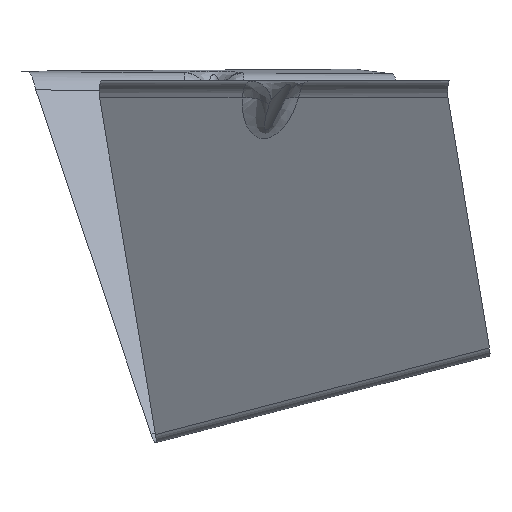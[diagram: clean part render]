
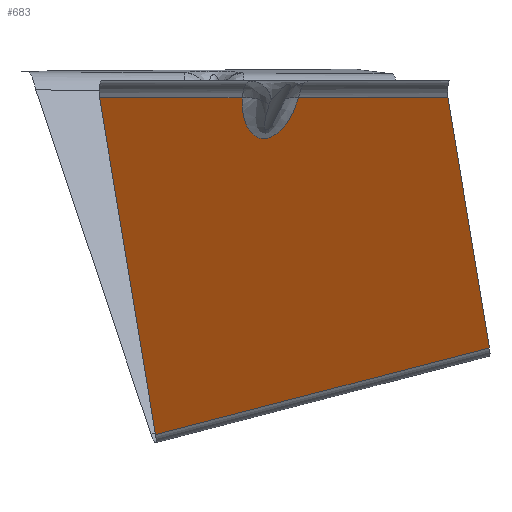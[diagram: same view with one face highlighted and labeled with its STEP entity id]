
A CAD part, left-side view. The second image highlights one B-rep face of the part: STEP entity #683.
In plain terms, the highlighted planar face has unit normal (-0.83, -0.249, -0.5).
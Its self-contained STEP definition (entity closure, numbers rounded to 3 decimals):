
#268=CARTESIAN_POINT('Vertex',(-109.681,9.55,-0.15)) ;
#531=CARTESIAN_POINT('Control Point',(-104.807,-6.696,-0.15)) ;
#532=CARTESIAN_POINT('Control Point',(-104.573,-6.563,-0.605)) ;
#533=CARTESIAN_POINT('Control Point',(-104.342,-6.42,-1.06)) ;
#534=CARTESIAN_POINT('Control Point',(-104.114,-6.266,-1.514)) ;
#535=CARTESIAN_POINT('Control Point',(-103.472,-5.794,-2.813)) ;
#536=CARTESIAN_POINT('Control Point',(-102.864,-5.23,-4.103)) ;
#537=CARTESIAN_POINT('Control Point',(-102.485,-4.82,-4.935)) ;
#538=CARTESIAN_POINT('Control Point',(-101.972,-4.167,-6.112)) ;
#539=CARTESIAN_POINT('Control Point',(-101.512,-3.393,-7.26)) ;
#540=CARTESIAN_POINT('Control Point',(-101.38,-3.15,-7.6)) ;
#541=CARTESIAN_POINT('Control Point',(-101.147,-2.676,-8.222)) ;
#542=CARTESIAN_POINT('Control Point',(-100.94,-2.153,-8.827)) ;
#543=CARTESIAN_POINT('Control Point',(-100.85,-1.9,-9.102)) ;
#544=CARTESIAN_POINT('Control Point',(-100.644,-1.24,-9.771)) ;
#545=CARTESIAN_POINT('Control Point',(-100.492,-0.489,-10.398)) ;
#546=CARTESIAN_POINT('Control Point',(-100.425,-0.001,-10.752)) ;
#547=CARTESIAN_POINT('Control Point',(-100.373,0.827,-11.251)) ;
#548=CARTESIAN_POINT('Control Point',(-100.441,1.774,-11.608)) ;
#549=CARTESIAN_POINT('Control Point',(-100.484,2.125,-11.712)) ;
#550=CARTESIAN_POINT('Control Point',(-100.587,2.707,-11.831)) ;
#551=CARTESIAN_POINT('Control Point',(-100.744,3.294,-11.862)) ;
#552=CARTESIAN_POINT('Control Point',(-100.812,3.515,-11.86)) ;
#553=CARTESIAN_POINT('Control Point',(-101.01,4.096,-11.82)) ;
#554=CARTESIAN_POINT('Control Point',(-101.251,4.639,-11.691)) ;
#555=CARTESIAN_POINT('Control Point',(-101.413,4.958,-11.58)) ;
#556=CARTESIAN_POINT('Control Point',(-101.879,5.77,-11.212)) ;
#557=CARTESIAN_POINT('Control Point',(-102.378,6.42,-10.709)) ;
#558=CARTESIAN_POINT('Control Point',(-102.697,6.78,-10.358)) ;
#559=CARTESIAN_POINT('Control Point',(-103.232,7.312,-9.736)) ;
#560=CARTESIAN_POINT('Control Point',(-103.761,7.742,-9.072)) ;
#561=CARTESIAN_POINT('Control Point',(-103.975,7.903,-8.797)) ;
#562=CARTESIAN_POINT('Control Point',(-104.451,8.233,-8.171)) ;
#563=CARTESIAN_POINT('Control Point',(-104.92,8.505,-7.528)) ;
#564=CARTESIAN_POINT('Control Point',(-105.178,8.64,-7.167)) ;
#565=CARTESIAN_POINT('Control Point',(-106.114,9.084,-5.835)) ;
#566=CARTESIAN_POINT('Control Point',(-107.022,9.355,-4.465)) ;
#567=CARTESIAN_POINT('Control Point',(-107.664,9.484,-3.463)) ;
#568=CARTESIAN_POINT('Control Point',(-108.454,9.57,-2.195)) ;
#569=CARTESIAN_POINT('Control Point',(-109.223,9.57,-0.92)) ;
#570=CARTESIAN_POINT('Control Point',(-109.376,9.566,-0.664)) ;
#571=CARTESIAN_POINT('Control Point',(-109.529,9.56,-0.407)) ;
#572=CARTESIAN_POINT('Control Point',(-109.681,9.55,-0.15)) ;
#573=CARTESIAN_POINT('Vertex',(-104.807,-6.696,-0.15)) ;
#637=CARTESIAN_POINT('Axis2P3D Location',(-48.265,-14.48,-90.079)) ;
#642=CARTESIAN_POINT('Line Origine',(-115.814,29.995,-0.15)) ;
#646=CARTESIAN_POINT('Vertex',(-121.948,50.44,-0.15)) ;
#649=CARTESIAN_POINT('Line Origine',(-90.406,42.421,-48.487)) ;
#653=CARTESIAN_POINT('Vertex',(-58.864,34.402,-96.823)) ;
#656=CARTESIAN_POINT('Line Origine',(-51.984,-13.534,-84.381)) ;
#660=CARTESIAN_POINT('Vertex',(-45.103,-61.47,-71.938)) ;
#663=CARTESIAN_POINT('Line Origine',(-68.525,-55.515,-36.044)) ;
#667=CARTESIAN_POINT('Vertex',(-91.948,-49.56,-0.15)) ;
#670=CARTESIAN_POINT('Line Origine',(-98.377,-28.128,-0.15)) ;
#638=DIRECTION('Axis2P3D Direction',(0.83,0.249,0.5)) ;
#639=DIRECTION('Axis2P3D XDirection',(0.541,-0.138,-0.83)) ;
#643=DIRECTION('Vector Direction',(0.287,-0.958,0.)) ;
#650=DIRECTION('Vector Direction',(0.541,-0.138,-0.83)) ;
#657=DIRECTION('Vector Direction',(0.138,-0.959,0.249)) ;
#664=DIRECTION('Vector Direction',(-0.541,0.138,0.83)) ;
#671=DIRECTION('Vector Direction',(0.287,-0.958,0.)) ;
#640=AXIS2_PLACEMENT_3D('Plane Axis2P3D',#637,#638,#639) ;
#676=ORIENTED_EDGE('',*,*,#575,.T.) ;
#677=ORIENTED_EDGE('',*,*,#648,.F.) ;
#678=ORIENTED_EDGE('',*,*,#655,.T.) ;
#679=ORIENTED_EDGE('',*,*,#662,.T.) ;
#680=ORIENTED_EDGE('',*,*,#669,.T.) ;
#681=ORIENTED_EDGE('',*,*,#674,.F.) ;
#644=VECTOR('Line Direction',#643,1.) ;
#651=VECTOR('Line Direction',#650,1.) ;
#658=VECTOR('Line Direction',#657,1.) ;
#665=VECTOR('Line Direction',#664,1.) ;
#672=VECTOR('Line Direction',#671,1.) ;
#683=ADVANCED_FACE('Extract.1',(#682),#641,.F.) ;
#530=B_SPLINE_CURVE_WITH_KNOTS('',5,(#531,#532,#533,#534,#535,#536,#537,#538,#539,#540,#541,#542,#543,#544,#545,#546,#547,#548,#549,#550,#551,#552,#553,#554,#555,#556,#557,#558,#559,#560,#561,#562,#563,#564,#565,#566,#567,#568,#569,#570,#571,#572),.UNSPECIFIED.,.F.,.U.,(6,3,3,3,3,3,3,3,3,3,3,3,3,6),(31.584,35.09,41.641,44.425,46.805,50.334,52.27,53.45,55.423,58.895,61.273,64.224,72.087,74.064),.UNSPECIFIED.) ;
#575=EDGE_CURVE('',#574,#269,#530,.T.) ;
#648=EDGE_CURVE('',#647,#269,#645,.T.) ;
#655=EDGE_CURVE('',#647,#654,#652,.T.) ;
#662=EDGE_CURVE('',#654,#661,#659,.T.) ;
#669=EDGE_CURVE('',#661,#668,#666,.T.) ;
#674=EDGE_CURVE('',#574,#668,#673,.T.) ;
#675=EDGE_LOOP('',(#676,#677,#678,#679,#680,#681)) ;
#682=FACE_OUTER_BOUND('',#675,.T.) ;
#645=LINE('Line',#642,#644) ;
#652=LINE('Line',#649,#651) ;
#659=LINE('Line',#656,#658) ;
#666=LINE('Line',#663,#665) ;
#673=LINE('Line',#670,#672) ;
#641=PLANE('',#640) ;
#269=VERTEX_POINT('',#268) ;
#574=VERTEX_POINT('',#573) ;
#647=VERTEX_POINT('',#646) ;
#654=VERTEX_POINT('',#653) ;
#661=VERTEX_POINT('',#660) ;
#668=VERTEX_POINT('',#667) ;
